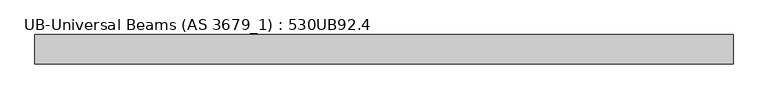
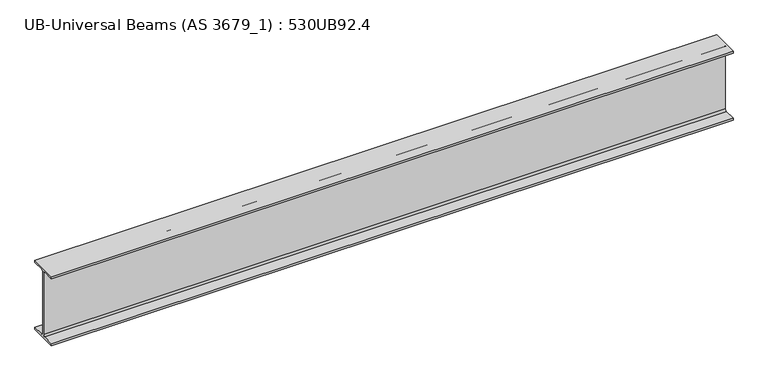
"""IFC4 building model written with IfcOpenShell, lengths in millimetres: beam geometry, UB-Universal Beams (AS 3679_1) : 530UB92.4."""

from ifc_helpers import new_model, si_unit, point, frame, frame_2d, origin, place, context, project, spatial, polyline, circle_curve, trimmed, segment, composite_curve, outline, extrude, source, transform, mapped, element, save


def ub_universal_beams_as_3679_1_530ub92_4_c3b5dabe(model_context):
    return source(origin(), model_context, "Body", "SweptSolid", [
        extrude(outline(composite_curve([segment(polyline([(104.5, -250.9), (104.5, -266.5), (-104.5, -266.5), (-104.5, -250.9), (-19.1, -250.9)]), True, "CONTINUOUS"), segment(trimmed(circle_curve(frame_2d((-19.1, -236.9)), 14.0), [point((-19.1, -250.9))], [point((-5.1, -236.9))], True, "CARTESIAN"), True, "CONTINUOUS"), segment(polyline([(-5.1, -236.9), (-5.1, 236.9)]), True, "CONTINUOUS"), segment(trimmed(circle_curve(frame_2d((-19.1, 236.9)), 14.0), [point((-5.1, 236.9))], [point((-19.1, 250.9))], True, "CARTESIAN"), True, "CONTINUOUS"), segment(polyline([(-19.1, 250.9), (-104.5, 250.9), (-104.5, 266.5), (104.5, 266.5), (104.5, 250.9), (19.1, 250.9)]), True, "CONTINUOUS"), segment(trimmed(circle_curve(frame_2d((19.1, 236.9)), 14.0), [point((19.1, 250.9))], [point((5.1, 236.9))], True, "CARTESIAN"), True, "CONTINUOUS"), segment(polyline([(5.1, 236.9), (5.1, -236.9)]), True, "CONTINUOUS"), segment(trimmed(circle_curve(frame_2d((19.1, -236.9)), 14.0), [point((5.1, -236.9))], [point((19.1, -250.9))], True, "CARTESIAN"), True, "CONTINUOUS"), segment(polyline([(19.1, -250.9), (104.5, -250.9)]), True, "CONTINUOUS")], self_intersect=False)), frame((-2447.6, 0.0, 0.0), z_axis=(1.0, 0.0, 0.0), x_axis=(0.0, 1.0, 0.0)), (0.0, 0.0, 1.0), 4969.8),
    ])


if __name__ == "__main__":
    model = new_model("IFC4")
    model_context = context("Model", 3, world=origin())
    ifc_project = project(units=[si_unit("LENGTHUNIT", "METRE", prefix="MILLI")], contexts=[model_context])
    site = spatial("IfcSite", under=ifc_project)
    building = spatial("IfcBuilding", under=site)
    placement = place(None, origin())
    ub_universal_beams_as_3679_1_530ub92_4_shape = ub_universal_beams_as_3679_1_530ub92_4_c3b5dabe(model_context)
    element("IfcBeam", 1, ObjectType="UB-Universal Beams (AS 3679_1) : 530UB92.4", at=placement, inside=building, context=model_context, shape_type="MappedRepresentation", body=[
        mapped(ub_universal_beams_as_3679_1_530ub92_4_shape, transform((0.0, 0.0, 0.0), x_axis=(1.0, 0.0, 0.0), y_axis=(0.0, 1.0, 0.0), z_axis=(0.0, 0.0, 1.0))),
    ])
    save(model, "model.ifc")
